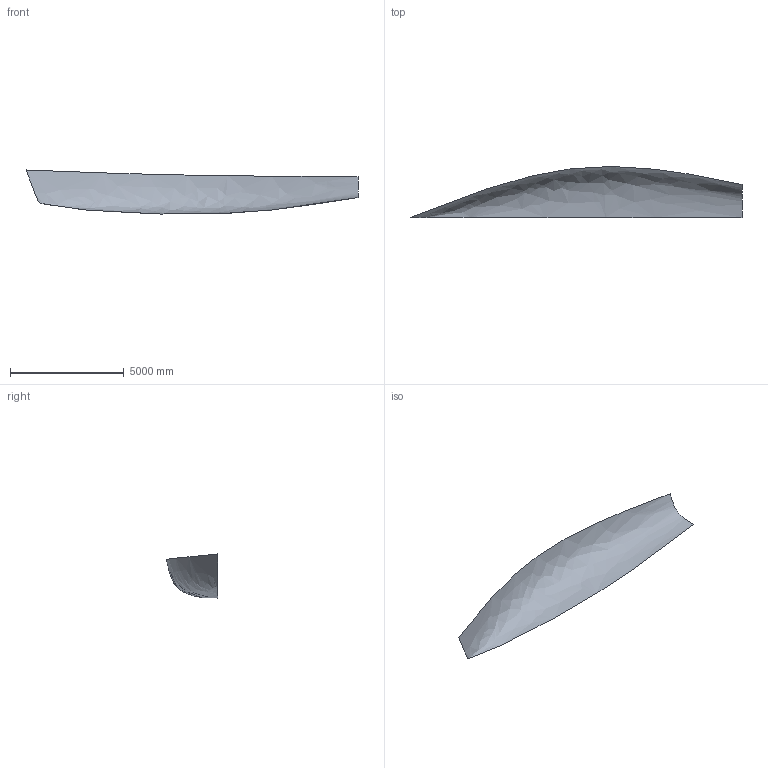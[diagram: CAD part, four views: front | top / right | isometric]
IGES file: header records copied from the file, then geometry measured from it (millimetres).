
Start section: DATA transfer to IGES file format           James R Teeters           17 Goodwin Street           Newport, RI 02840
Global section: file name: UssaM6.igs; author: Jim Teeters; organization: Newport RI; date: 951128.120000; units: metre
Bounding box: 14612.59 x 2245.08 x 1938.26 mm (x, y, z)
Surface area: 38059804.9 mm2 (no closed solid volume)
Topology: 0 solids, 0 shells, 1 faces, 4 edges, 4 vertices
Faces by surface type: bspline 1
